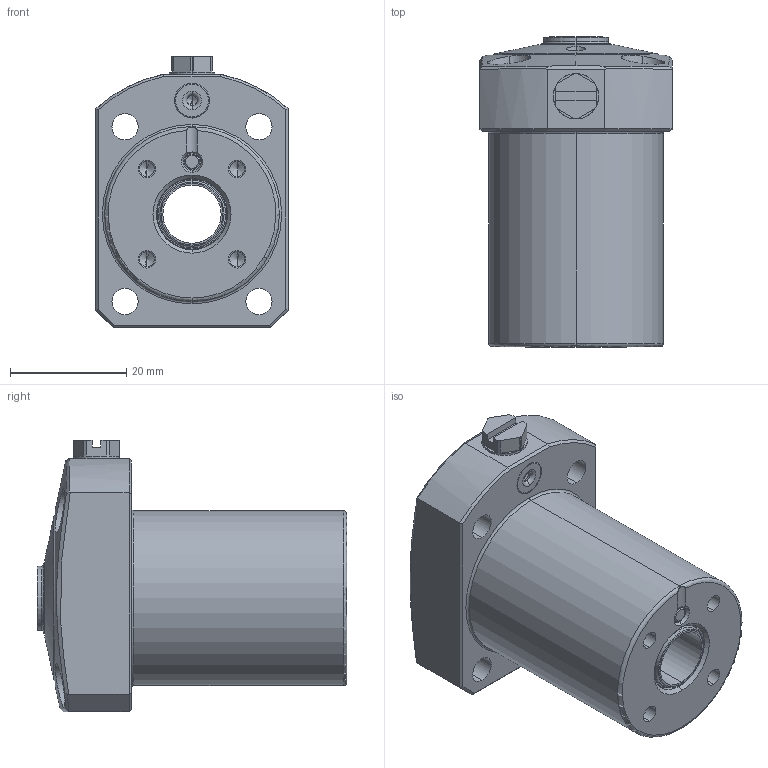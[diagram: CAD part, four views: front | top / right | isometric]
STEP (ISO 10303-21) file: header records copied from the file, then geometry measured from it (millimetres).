
FILE_DESCRIPTION(/* description */ (''),/* implementation_level */ '2;1');
FILE_NAME(/* name */ 'FNE30-C.stp',/* time_stamp */ '2025-10-27T14:08:54+08:00',/* author */ (''),/* organization */ (''),/* preprocessor_version */ 'ST-DEVELOPER v16.7',/* originating_system */ 'SIEMENS PLM Software NX 12.0',/* authorisation */ '');
FILE_SCHEMA (('AUTOMOTIVE_DESIGN { 1 0 10303 214 3 1 1 1 }'));
Length unit declared in the file: millimetre
Products named in the file (5): FNE30-01; FNE30-04; FNE30-02; FNE30-03; WNA0703-G-D_step
Assembly tree (4 placements, depth 2):
  WNA0703-G-D_step
    FNE30-03
    FNE30-02
    FNE30-04
    FNE30-01
Bounding box: 33 x 53.2 x 46.6 mm (x, y, z)
Volume: 38473.4 mm3; surface area: 11097.3 mm2
Topology: 4 solids, 4 shells, 195 faces, 446 edges, 263 vertices
Faces by surface type: cylinder 69, plane 50, cone 48, torus 22, bspline 6
Entity records: 6612 total; most frequent: CARTESIAN_POINT 2105, DIRECTION 979, ORIENTED_EDGE 864, EDGE_CURVE 432, AXIS2_PLACEMENT_3D 402, VERTEX_POINT 263, EDGE_LOOP 225, CIRCLE 208
